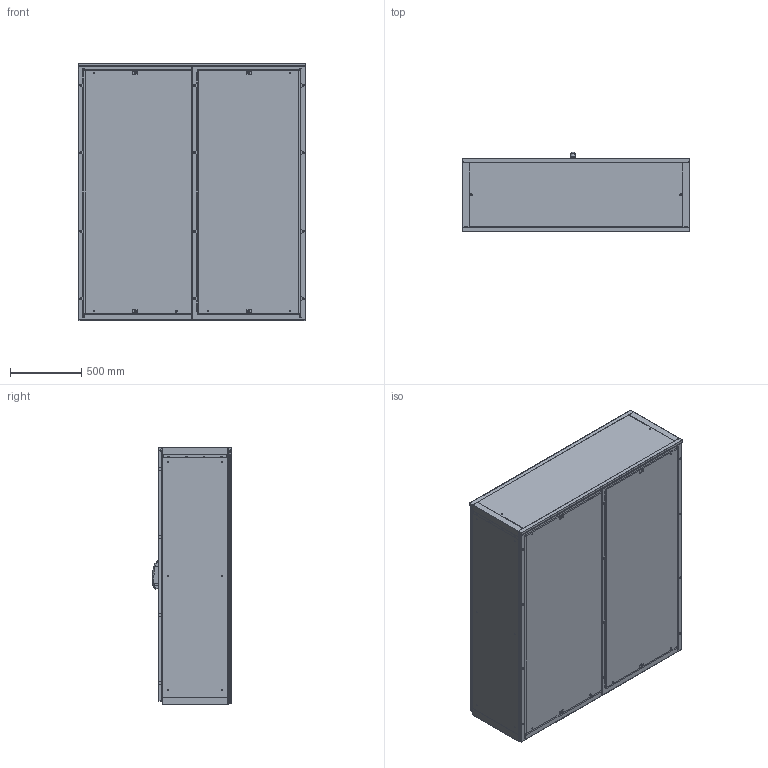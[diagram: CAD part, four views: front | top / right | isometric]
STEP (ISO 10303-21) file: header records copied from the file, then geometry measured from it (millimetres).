
FILE_DESCRIPTION (( 'STEP AP203' ), '1' );
FILE_NAME ('EMOX-161805PRX.STEP', '2021-03-16T09:32:52', ( '' ), ( '' ), 'SwSTEP 2.0', 'SolidWorks 2019', '' );
FILE_SCHEMA (( 'CONFIG_CONTROL_DESIGN' ));
Length unit declared in the file: millimetre
Products named in the file (14): AR_EMOX_inox_montaggio_porta_IB_2.0_1600x1800_ANT_DX; AR_EMOX_montaggio_piastra_frontale_composta_1600x1800; AR_EMOX_inox_Retro_CB_1600x1800; AR_EMOX_inox_struttura_1600x1800x0500; AR_EMOX_inox_Tegolino_1600x0100; AR_EMOX_Piastra_frontale_composta_2_1600x1800; AR_EMOX_inox_Porta_IB_2.0_1600x1800_ANT; AR_EMOX_omega_Piastra_composta_H=1800; AR_EMOX_inox_Porta_CB_2.0_1600x1800_ANT_DX; AR_EMOX_Piastra_frontale_composta_1600x1800; AR_EMOX_inox_Tegolino_1600x0050; AR_ENUX_nuova_maniglia_mesan; EMOX-161805PRX; AR_EMOX_inox_Retro_IB_1600x1800
Assembly tree (20 placements, depth 3):
  EMOX-161805PRX
    AR_EMOX_inox_struttura_1600x1800x0500
    AR_EMOX_montaggio_piastra_frontale_composta_1600x1800
      AR_EMOX_Piastra_frontale_composta_1600x1800
      AR_EMOX_Piastra_frontale_composta_2_1600x1800
      AR_EMOX_omega_Piastra_composta_H=1800  x2
    AR_EMOX_inox_montaggio_porta_IB_2.0_1600x1800_ANT_DX
      AR_EMOX_inox_Porta_IB_2.0_1600x1800_ANT
      AR_ENUX_nuova_maniglia_mesan
    AR_EMOX_inox_Porta_CB_2.0_1600x1800_ANT_DX
    AR_EMOX_inox_Tegolino_1600x0050  x4
    AR_EMOX_inox_Tegolino_1600x0100  x4
    AR_EMOX_inox_Retro_CB_1600x1800
    AR_EMOX_inox_Retro_IB_1600x1800
Bounding box: 1600 x 556.5 x 1809 mm (x, y, z)
Volume: 27876052.7 mm3; surface area: 31379391.6 mm2
Topology: 18 solids, 18 shells, 4370 faces, 11952 edges, 7617 vertices
Faces by surface type: plane 2277, cylinder 1839, cone 102, torus 79, sphere 44, bspline 29
Entity records: 134480 total; most frequent: CARTESIAN_POINT 26002, DIRECTION 22498, ORIENTED_EDGE 21880, EDGE_CURVE 10940, AXIS2_PLACEMENT_3D 7753, VERTEX_POINT 7097, LINE 6992, VECTOR 6992
